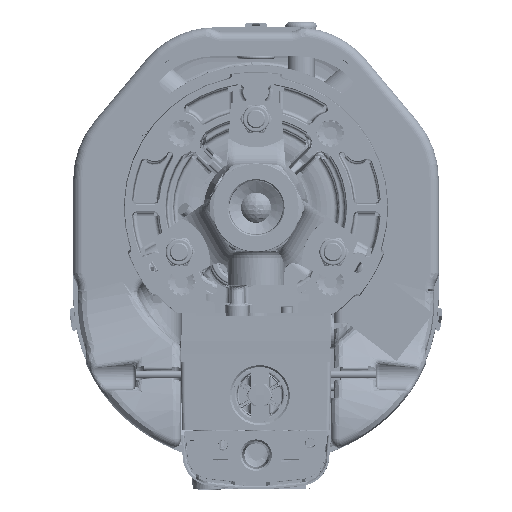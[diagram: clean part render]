
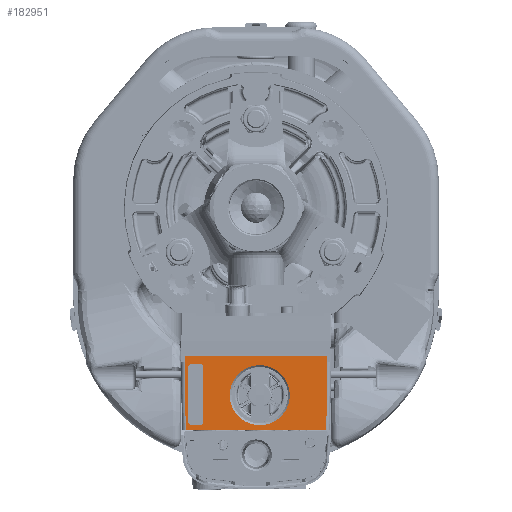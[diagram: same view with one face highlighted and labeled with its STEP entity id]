
A CAD part, front view. The second image highlights one B-rep face of the part: STEP entity #182951.
In plain terms, the highlighted planar face has unit normal (0, -1, 0).
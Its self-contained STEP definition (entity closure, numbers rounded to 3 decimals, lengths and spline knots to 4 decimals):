
#170643=DIRECTION('',(-1.,0.,0.));
#170644=VECTOR('',#170643,4.7435);
#170645=CARTESIAN_POINT('',(2.3718,10.8758,-4.94));
#170646=LINE('',#170645,#170644);
#170647=DIRECTION('',(0.017,0.,-1.));
#170648=VECTOR('',#170647,0.185);
#170649=CARTESIAN_POINT('',(2.3718,10.8758,-4.94));
#170650=LINE('',#170649,#170648);
#170651=DIRECTION('',(0.017,0.,1.));
#170652=VECTOR('',#170651,2.2703);
#170653=CARTESIAN_POINT('',(2.3354,10.8758,-7.395));
#170654=LINE('',#170653,#170652);
#170655=DIRECTION('',(-1.,0.,0.));
#170656=VECTOR('',#170655,4.6707);
#170657=CARTESIAN_POINT('',(2.3354,10.8758,-7.395));
#170658=LINE('',#170657,#170656);
#170659=DIRECTION('',(0.017,0.,-1.));
#170660=VECTOR('',#170659,2.2703);
#170661=CARTESIAN_POINT('',(-2.375,10.8758,-5.125));
#170662=LINE('',#170661,#170660);
#170663=DIRECTION('',(0.017,0.,1.));
#170664=VECTOR('',#170663,0.185);
#170665=CARTESIAN_POINT('',(-2.375,10.8758,-5.125));
#170666=LINE('',#170665,#170664);
#170667=CARTESIAN_POINT('',(0.125,10.8758,-6.232));
#170668=DIRECTION('',(0.,1.,0.));
#170669=DIRECTION('',(0.,0.,-1.));
#170670=AXIS2_PLACEMENT_3D('',#170667,#170668,#170669);
#170672=CARTESIAN_POINT('',(0.125,10.8758,-6.232));
#170673=DIRECTION('',(0.,1.,0.));
#170674=DIRECTION('',(0.,0.,1.));
#170675=AXIS2_PLACEMENT_3D('',#170672,#170673,#170674);
#175844=CARTESIAN_POINT('',(2.3354,10.8758,-7.395));
#175846=CARTESIAN_POINT('',(2.375,10.8758,-5.125));
#175876=CARTESIAN_POINT('',(-2.375,10.8758,-5.125));
#181256=VERTEX_POINT('',#175846);
#181258=VERTEX_POINT('',#175876);
#181665=VERTEX_POINT('',#175844);
#181666=CARTESIAN_POINT('',(-2.3354,10.8758,-7.395));
#181667=VERTEX_POINT('',#181666);
#181701=CARTESIAN_POINT('',(2.3718,10.8758,-4.94));
#181702=CARTESIAN_POINT('',(-2.3718,10.8758,-4.94));
#181703=VERTEX_POINT('',#181701);
#181704=VERTEX_POINT('',#181702);
#181913=CARTESIAN_POINT('',(0.125,10.8758,-7.2305));
#181914=CARTESIAN_POINT('',(0.125,10.8758,-5.2335));
#181915=VERTEX_POINT('',#181913);
#181916=VERTEX_POINT('',#181914);
#182926=CARTESIAN_POINT('',(0.125,10.8758,-6.175));
#182927=DIRECTION('',(0.,-1.,0.));
#182928=DIRECTION('',(-1.,0.,0.));
#182929=AXIS2_PLACEMENT_3D('',#182926,#182927,#182928);
#182930=PLANE('',#182929);
#182932=ORIENTED_EDGE('',*,*,#182931,.F.);
#182934=ORIENTED_EDGE('',*,*,#182933,.T.);
#182936=ORIENTED_EDGE('',*,*,#182935,.F.);
#182938=ORIENTED_EDGE('',*,*,#182937,.T.);
#182940=ORIENTED_EDGE('',*,*,#182939,.F.);
#182942=ORIENTED_EDGE('',*,*,#182941,.T.);
#182943=EDGE_LOOP('',(#182932,#182934,#182936,#182938,#182940,#182942));
#182944=FACE_OUTER_BOUND('',#182943,.F.);
#182946=ORIENTED_EDGE('',*,*,#182945,.F.);
#182948=ORIENTED_EDGE('',*,*,#182947,.F.);
#182949=EDGE_LOOP('',(#182946,#182948));
#182950=FACE_BOUND('',#182949,.F.);
#182951=ADVANCED_FACE('',(#182944,#182950),#182930,.T.);
#170671=CIRCLE('',#170670,0.9985);
#170676=CIRCLE('',#170675,0.9985);
#182931=EDGE_CURVE('',#181703,#181704,#170646,.T.);
#182933=EDGE_CURVE('',#181703,#181256,#170650,.T.);
#182935=EDGE_CURVE('',#181665,#181256,#170654,.T.);
#182937=EDGE_CURVE('',#181665,#181667,#170658,.T.);
#182939=EDGE_CURVE('',#181258,#181667,#170662,.T.);
#182941=EDGE_CURVE('',#181258,#181704,#170666,.T.);
#182945=EDGE_CURVE('',#181915,#181916,#170671,.T.);
#182947=EDGE_CURVE('',#181916,#181915,#170676,.T.);
